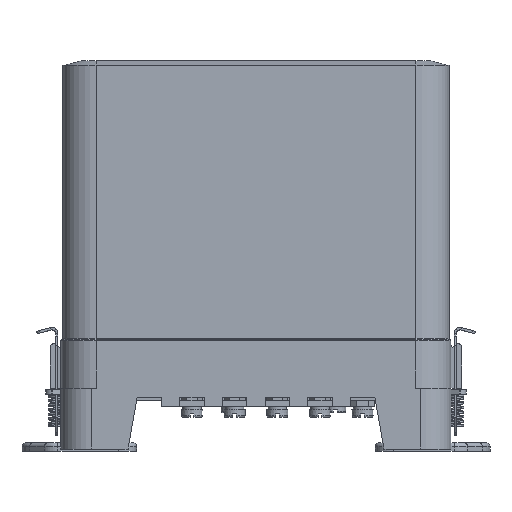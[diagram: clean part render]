
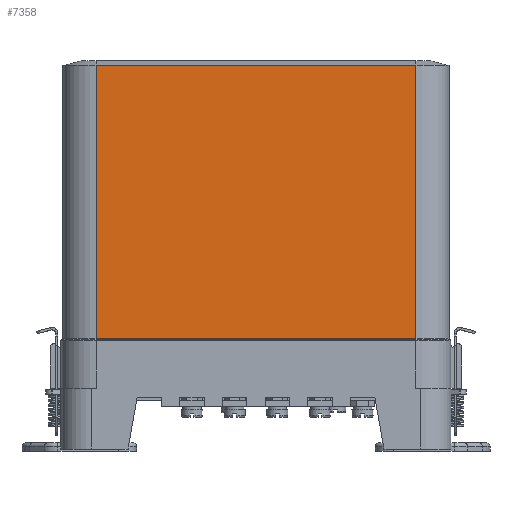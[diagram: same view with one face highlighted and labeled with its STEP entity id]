
A CAD part, left-side view. The second image highlights one B-rep face of the part: STEP entity #7358.
In plain terms, the highlighted planar face has unit normal (-1, 0, 0).
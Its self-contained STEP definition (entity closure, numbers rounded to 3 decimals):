
#7358=ADVANCED_FACE('',(#18268),#18270,.T.);
#18268=FACE_BOUND('',#18269,.T.);
#18269=EDGE_LOOP('',(#34241,#34242,#34243,#34244));
#18270=PLANE('',#18271);
#18271=AXIS2_PLACEMENT_3D('',#18272,#18273,#18274);
#18272=CARTESIAN_POINT('',(-46.5,52.5,20.));
#18273=DIRECTION('',(-1.,0.,0.));
#18274=DIRECTION('',(0.,-1.,0.));
#34241=ORIENTED_EDGE('',*,*,#38951,.T.);
#34242=ORIENTED_EDGE('',*,*,#38952,.F.);
#34243=ORIENTED_EDGE('',*,*,#38354,.F.);
#34244=ORIENTED_EDGE('',*,*,#38953,.T.);
#38354=EDGE_CURVE('',#43000,#43001,#43002,.F.);
#38951=EDGE_CURVE('',#44005,#44006,#44007,.F.);
#38952=EDGE_CURVE('',#43001,#44006,#44008,.T.);
#38953=EDGE_CURVE('',#43000,#44005,#44009,.T.);
#43000=VERTEX_POINT('',#52772);
#43001=VERTEX_POINT('',#52773);
#43002=LINE('',#52774,#52775);
#44005=VERTEX_POINT('',#55270);
#44006=VERTEX_POINT('',#55271);
#44007=LINE('',#55272,#55273);
#44008=LINE('',#55275,#55276);
#44009=LINE('',#55278,#55279);
#52772=CARTESIAN_POINT('',(-46.5,-52.5,36.366));
#52773=CARTESIAN_POINT('',(-46.5,52.5,36.366));
#52774=CARTESIAN_POINT('',(-46.5,52.5,36.366));
#52775=VECTOR('',#52776,1.);
#52776=DIRECTION('',(0.,-1.,0.));
#55270=CARTESIAN_POINT('',(-46.5,-52.5,126.));
#55271=CARTESIAN_POINT('',(-46.5,52.5,126.));
#55272=CARTESIAN_POINT('',(-46.5,52.5,126.));
#55273=VECTOR('',#55274,1.);
#55274=DIRECTION('',(0.,-1.,0.));
#55275=CARTESIAN_POINT('',(-46.5,52.5,36.366));
#55276=VECTOR('',#55277,1.);
#55277=DIRECTION('',(0.,0.,1.));
#55278=CARTESIAN_POINT('',(-46.5,-52.5,36.366));
#55279=VECTOR('',#55280,1.);
#55280=DIRECTION('',(0.,0.,1.));
